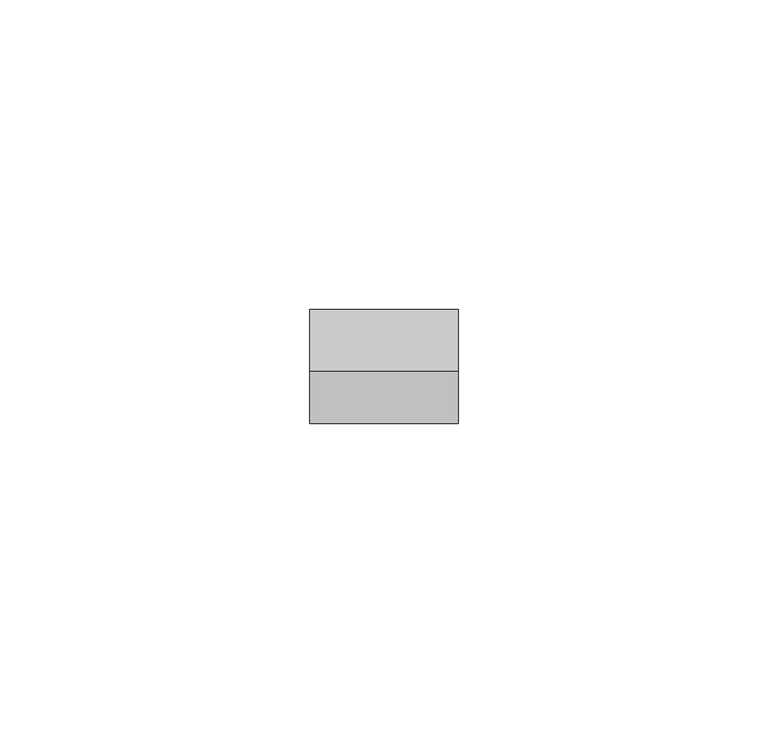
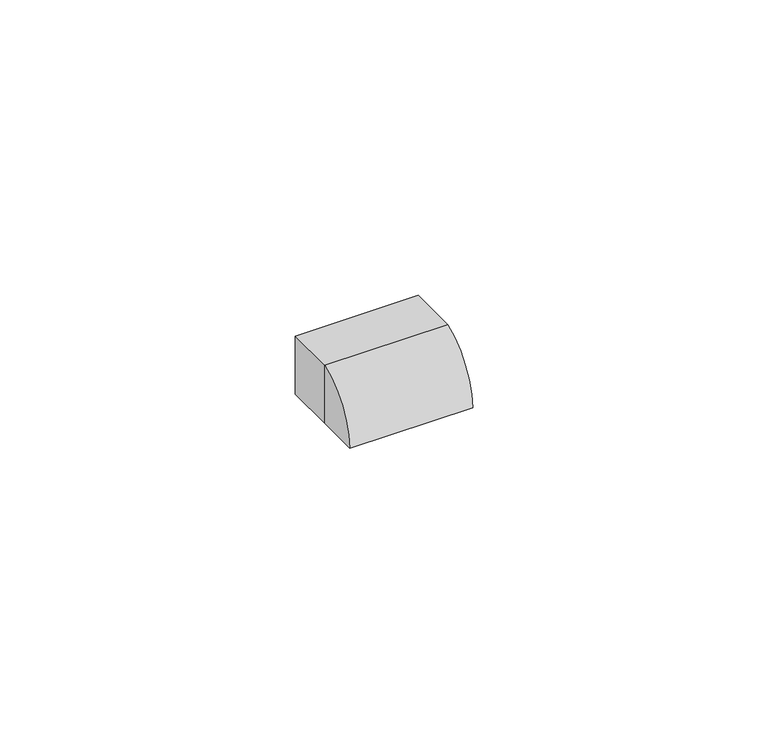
"""IFC4 building model written with IfcOpenShell, lengths in millimetres: proxy geometry, Заглушка_кабельной_трассы КМЗ : Заглушка кабельной трассы КМЗ 20х10."""

from ifc_helpers import new_model, si_unit, frame, origin, place, context, project, spatial, polyline, circle_curve, outline, extrude, source, transform, mapped, element, save
from ifc_brep_helpers import plane_surface, cylinder_surface, revolved_surface, advanced_brep


def generic_models_fbb1afa0(model_context):
    return source(origin(), model_context, "Body", "SolidModel", [
        advanced_brep(
        [(-28.0, -10.0, 0.0), (-28.0, -10.0, 12.0), (-28.0, -18.4167898, 0.0), (-52.0, -10.0, 0.0), (-52.0, -18.4167898, 0.0), (-52.0, -10.0, 12.0), (-30.0, -10.0, 0.0), (-30.0, -10.0, 10.0), (-50.0, -10.0, 10.0), (-50.0, -10.0, 0.0), (-50.0, -16.7136094, 0.0), (-30.0, -16.7136094, 0.0)],
        [
            (0, 1),
            (1, 2, circle_curve(frame((-28.0, -5.1340485, -0.3647388), z_axis=(1.0, 0.0, 0.0), x_axis=(0.0, 1.0, 0.0)), 13.2877481)),
            (2, 0),
            (3, 4),
            (4, 5, circle_curve(frame((-52.0, -5.1340485, -0.3647388), z_axis=(-1.0, 0.0, 0.0), x_axis=(0.0, 1.0, 0.0)), 13.2877481)),
            (5, 3),
            (0, 6),
            (6, 7),
            (7, 8),
            (8, 9),
            (9, 3),
            (5, 1),
            (4, 2),
            (9, 10),
            (10, 11),
            (11, 6),
            (11, 7, circle_curve(frame((-30.0, -4.8124322, -0.7363579), z_axis=(-1.0, 0.0, 0.0), x_axis=(0.0, 1.0, 0.0)), 11.9239356)),
            (8, 10, circle_curve(frame((-50.0, -4.8124322, -0.7363579), z_axis=(1.0, 0.0, 0.0), x_axis=(0.0, 1.0, 0.0)), 11.9239356)),
        ],
        [
            plane_surface(frame((-28.0, -10.0, 12.0), z_axis=(1.0, 0.0, 0.0), x_axis=(0.0, 0.0, 1.0))),
            plane_surface(frame((-52.0, -10.0, 12.0), z_axis=(-1.0, 0.0, 0.0), x_axis=(0.0, 0.0, -1.0))),
            plane_surface(frame((-28.0, -10.0, 0.0), z_axis=(0.0, 1.0, 0.0), x_axis=(-1.0, 0.0, 0.0))),
            cylinder_surface(frame((-52.0, -5.1340485, -0.3647388), z_axis=(1.0, 0.0, 0.0), x_axis=(0.0, 1.0, 0.0)), 13.2877481),
            plane_surface(frame((-28.0, -18.4167898, 0.0), z_axis=(0.0, 0.0, -1.0), x_axis=(-1.0, 0.0, 0.0))),
            plane_surface(frame((-30.0, -10.0, 10.0), z_axis=(-1.0, 0.0, 0.0), x_axis=(0.0, 0.0, 1.0))),
            plane_surface(frame((-50.0, -10.0, 10.0), z_axis=(1.0, 0.0, 0.0), x_axis=(0.0, 0.0, -1.0))),
            revolved_surface(polyline([(-30.0, 7.1115034, -0.7363579), (-50.0, 7.1115034, -0.7363579)]), (-50.0, -4.8124322, -0.7363579), (1.0, 0.0, 0.0)),
        ],
        [
            (0, [[1, 2, 3]]),
            (1, [[4, 5, 6]]),
            (2, [[-1, 7, 8, 9, 10, 11, -6, 12]]),
            (3, [[-2, -12, -5, 13]]),
            (4, [[-3, -13, -4, -11, 14, 15, 16, -7]]),
            (5, [[17, -8, -16]]),
            (6, [[18, -14, -10]]),
            (7, [[-17, -15, -18, -9]]),
        ],
    ),
        extrude(outline(polyline([(12.0, -28.0), (12.0, -52.0), (0.0, -52.0), (0.0, -50.0), (10.0, -50.0), (10.0, -30.0), (0.0, -30.0), (0.0, -28.0), (12.0, -28.0)])), frame((0.0, -10.0, 0.0), z_axis=(0.0, 1.0, 0.0), x_axis=(0.0, 0.0, 1.0)), (0.0, 0.0, 1.0), 10.0),
    ])


if __name__ == "__main__":
    model = new_model("IFC4")
    model_context = context("Model", 3, world=origin())
    ifc_project = project(units=[si_unit("LENGTHUNIT", "METRE", prefix="MILLI")], contexts=[model_context])
    site = spatial("IfcSite", under=ifc_project)
    building = spatial("IfcBuilding", under=site)
    placement = place(None, origin())
    generic_models_shape = generic_models_fbb1afa0(model_context)
    element("IfcBuildingElementProxy", 1, Name="Заглушка_кабельной_трассы КМЗ : Заглушка кабельной трассы КМЗ 20х10", ObjectType="Заглушка_кабельной_трассы КМЗ : Заглушка кабельной трассы КМЗ 20х10", at=placement, inside=building, context=model_context, shape_type="MappedRepresentation", body=[
        mapped(generic_models_shape, transform((0.0, 0.0, 0.0), x_axis=(1.0, 0.0, 0.0), y_axis=(0.0, 1.0, 0.0), z_axis=(0.0, 0.0, 1.0))),
    ])
    save(model, "model.ifc")
